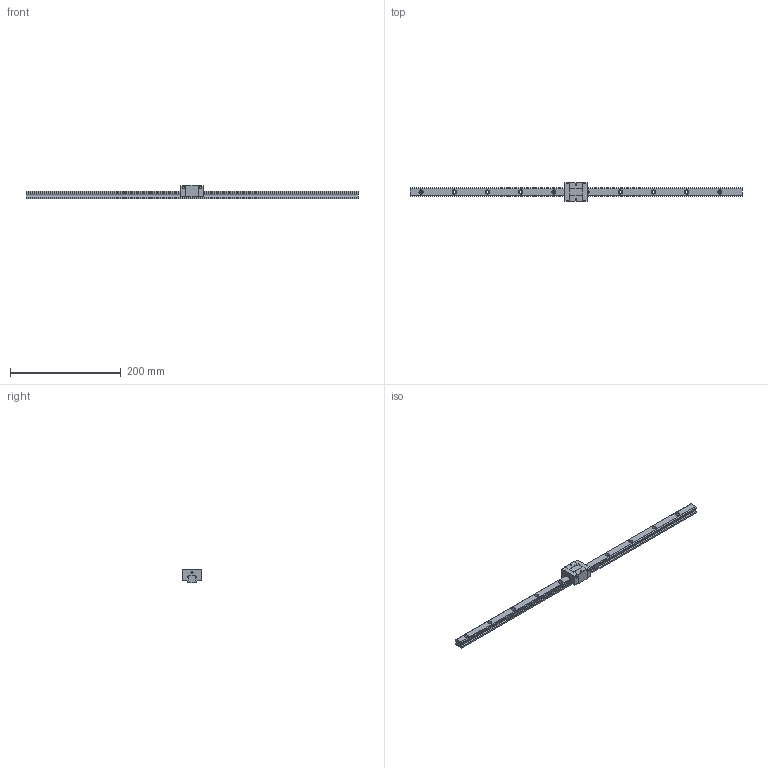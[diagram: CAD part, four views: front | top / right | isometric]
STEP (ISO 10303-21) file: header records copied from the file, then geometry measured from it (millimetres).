
FILE_DESCRIPTION (( 'STEP AP203' ), '1' );
FILE_NAME ('TRS15VS-XN.STEP', '2024-06-12T07:47:16', ( '' ), ( '' ), 'SwSTEP 2.0', 'SolidWorks 2022', '' );
FILE_SCHEMA (( 'CONFIG_CONTROL_DESIGN' ));
Length unit declared in the file: millimetre
Products named in the file (1): TRS15VS-XN
Bounding box: 600 x 34 x 24 mm (x, y, z)
Volume: 123257.5 mm3; surface area: 43788.5 mm2
Topology: 2 solids, 2 shells, 186 faces, 484 edges, 320 vertices
Faces by surface type: plane 94, cylinder 92
Entity records: 5863 total; most frequent: DIRECTION 1042, CARTESIAN_POINT 991, ORIENTED_EDGE 968, EDGE_CURVE 484, AXIS2_PLACEMENT_3D 371, VERTEX_POINT 320, VECTOR 300, LINE 300
